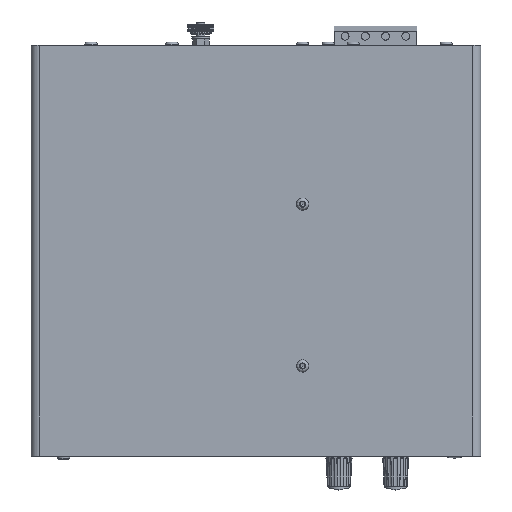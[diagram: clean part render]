
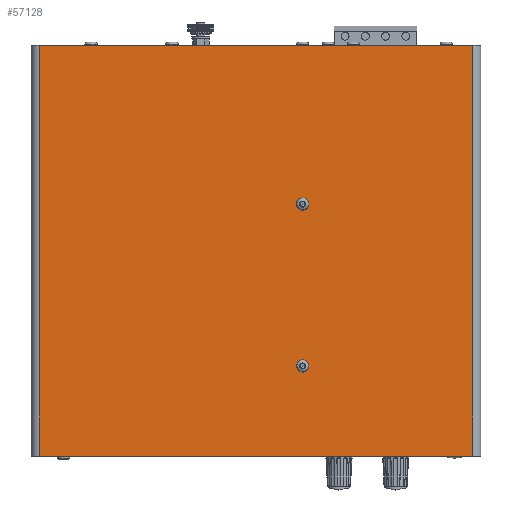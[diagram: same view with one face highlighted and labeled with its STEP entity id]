
A CAD part, top view. The second image highlights one B-rep face of the part: STEP entity #57128.
In plain terms, the highlighted planar face has unit normal (0, 0, 1).
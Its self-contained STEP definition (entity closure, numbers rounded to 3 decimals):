
#3618=LINE('',#89257,#7891);
#3621=LINE('',#89268,#7894);
#3624=LINE('',#89277,#7897);
#3626=LINE('',#89281,#7899);
#7891=VECTOR('',#69807,10.);
#7894=VECTOR('',#69820,10.);
#7897=VECTOR('',#69831,10.);
#7899=VECTOR('',#69837,10.);
#11595=FACE_BOUND('',#16596,.T.);
#11596=FACE_BOUND('',#16597,.T.);
#13138=FACE_OUTER_BOUND('',#16595,.T.);
#16595=EDGE_LOOP('',(#40445,#40446,#40447,#40448));
#16596=EDGE_LOOP('',(#40449));
#16597=EDGE_LOOP('',(#40450));
#20322=CIRCLE('',#61308,3.);
#20326=CIRCLE('',#61314,3.);
#23584=VERTEX_POINT('',#89181);
#23588=VERTEX_POINT('',#89192);
#23614=VERTEX_POINT('',#89254);
#23615=VERTEX_POINT('',#89256);
#23618=VERTEX_POINT('',#89267);
#23620=VERTEX_POINT('',#89275);
#29734=EDGE_CURVE('',#23584,#23584,#20322,.T.);
#29739=EDGE_CURVE('',#23588,#23588,#20326,.T.);
#29770=EDGE_CURVE('',#23614,#23615,#3618,.T.);
#29776=EDGE_CURVE('',#23618,#23615,#3621,.T.);
#29781=EDGE_CURVE('',#23614,#23620,#3624,.T.);
#29783=EDGE_CURVE('',#23618,#23620,#3626,.T.);
#40445=ORIENTED_EDGE('',*,*,#29781,.T.);
#40446=ORIENTED_EDGE('',*,*,#29783,.F.);
#40447=ORIENTED_EDGE('',*,*,#29776,.T.);
#40448=ORIENTED_EDGE('',*,*,#29770,.F.);
#40449=ORIENTED_EDGE('',*,*,#29734,.T.);
#40450=ORIENTED_EDGE('',*,*,#29739,.T.);
#51726=PLANE('',#61340);
#57128=ADVANCED_FACE('',(#13138,#11595,#11596),#51726,.T.);
#61308=AXIS2_PLACEMENT_3D('',#89182,#69741,#69742);
#61314=AXIS2_PLACEMENT_3D('',#89193,#69754,#69755);
#61340=AXIS2_PLACEMENT_3D('',#89280,#69835,#69836);
#69741=DIRECTION('center_axis',(0.,0.,-1.));
#69742=DIRECTION('ref_axis',(0.749,-0.663,0.));
#69754=DIRECTION('center_axis',(0.,0.,-1.));
#69755=DIRECTION('ref_axis',(-0.995,-0.095,0.));
#69807=DIRECTION('',(-1.,0.,0.));
#69820=DIRECTION('',(0.,-1.,0.));
#69831=DIRECTION('',(0.,1.,0.));
#69835=DIRECTION('center_axis',(0.,0.,1.));
#69836=DIRECTION('ref_axis',(1.,0.,0.));
#69837=DIRECTION('',(1.,0.,0.));
#89181=CARTESIAN_POINT('',(20.754,24.989,52.));
#89182=CARTESIAN_POINT('Origin',(23.,23.,52.));
#89192=CARTESIAN_POINT('',(25.986,-56.715,52.));
#89193=CARTESIAN_POINT('Origin',(23.,-57.,52.));
#89254=CARTESIAN_POINT('',(107.,-101.5,52.));
#89256=CARTESIAN_POINT('',(-107.,-101.5,52.));
#89257=CARTESIAN_POINT('',(111.,-101.5,52.));
#89267=CARTESIAN_POINT('',(-107.,101.5,52.));
#89268=CARTESIAN_POINT('',(-107.,50.75,52.));
#89275=CARTESIAN_POINT('',(107.,101.5,52.));
#89277=CARTESIAN_POINT('',(107.,-50.75,52.));
#89280=CARTESIAN_POINT('Origin',(0.,0.,
52.));
#89281=CARTESIAN_POINT('',(-111.,101.5,52.));
